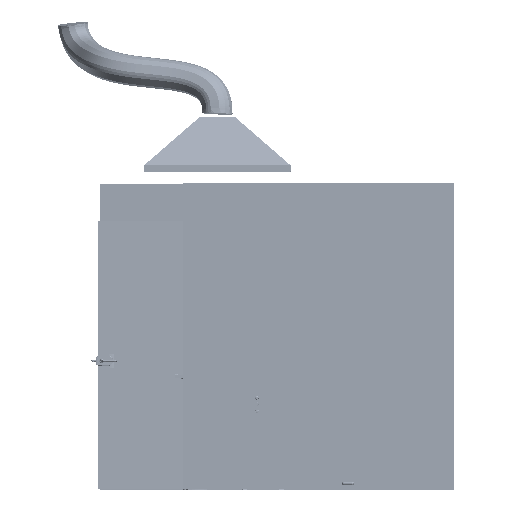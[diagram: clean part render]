
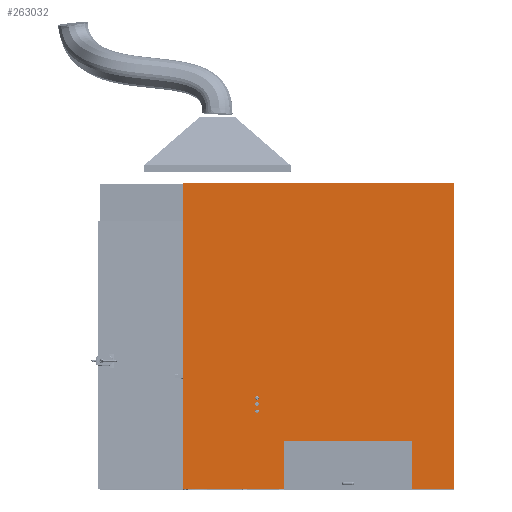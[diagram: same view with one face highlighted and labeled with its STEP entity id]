
A CAD part, top view. The second image highlights one B-rep face of the part: STEP entity #263032.
In plain terms, the highlighted planar face has unit normal (0, 0, 1).
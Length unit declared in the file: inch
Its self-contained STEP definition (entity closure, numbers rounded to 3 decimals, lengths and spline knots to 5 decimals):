
#262437=DIRECTION('',(0.,-1.,0.));
#262438=VECTOR('',#262437,15.74803);
#262439=CARTESIAN_POINT('',(-14.56693,15.74803,
55.19685));
#262440=LINE('',#262439,#262438);
#262493=DIRECTION('',(0.,1.,0.));
#262494=VECTOR('',#262493,98.8189);
#262495=CARTESIAN_POINT('',(-87.48031,0.,55.19685));
#262496=LINE('',#262495,#262494);
#262497=DIRECTION('',(0.,-1.,0.));
#262498=VECTOR('',#262497,98.8189);
#262499=CARTESIAN_POINT('',(0.07874,98.8189,
55.19685));
#262500=LINE('',#262499,#262498);
#262501=DIRECTION('',(-1.,0.,0.));
#262502=VECTOR('',#262501,14.64567);
#262503=CARTESIAN_POINT('',(0.07874,0.,55.19685));
#262504=LINE('',#262503,#262502);
#262505=DIRECTION('',(0.,-1.,0.));
#262506=VECTOR('',#262505,15.74803);
#262507=CARTESIAN_POINT('',(-51.9685,15.74803,
55.19685));
#262508=LINE('',#262507,#262506);
#262509=DIRECTION('',(-1.,0.,0.));
#262510=VECTOR('',#262509,35.51181);
#262511=CARTESIAN_POINT('',(-51.9685,0.,55.19685));
#262512=LINE('',#262511,#262510);
#262513=CARTESIAN_POINT('',(-63.71232,27.55906,
55.19685));
#262514=DIRECTION('',(0.,0.,1.));
#262515=DIRECTION('',(1.,0.,0.));
#262516=AXIS2_PLACEMENT_3D('',#262513,#262514,#262515);
#262518=CARTESIAN_POINT('',(-63.71232,27.55906,
55.19685));
#262519=DIRECTION('',(0.,0.,1.));
#262520=DIRECTION('',(-1.,0.,0.));
#262521=AXIS2_PLACEMENT_3D('',#262518,#262519,#262520);
#262523=CARTESIAN_POINT('',(-63.71232,29.52756,
55.19685));
#262524=DIRECTION('',(0.,0.,1.));
#262525=DIRECTION('',(1.,0.,0.));
#262526=AXIS2_PLACEMENT_3D('',#262523,#262524,#262525);
#262528=CARTESIAN_POINT('',(-63.71232,29.52756,
55.19685));
#262529=DIRECTION('',(0.,0.,1.));
#262530=DIRECTION('',(-1.,0.,0.));
#262531=AXIS2_PLACEMENT_3D('',#262528,#262529,#262530);
#262581=DIRECTION('',(-1.,0.,0.));
#262582=VECTOR('',#262581,87.55906);
#262583=CARTESIAN_POINT('',(0.07874,98.8189,
55.19685));
#262584=LINE('',#262583,#262582);
#262665=DIRECTION('',(1.,0.,0.));
#262666=VECTOR('',#262665,37.40157);
#262667=CARTESIAN_POINT('',(-51.9685,15.74803,
55.19685));
#262668=LINE('',#262667,#262666);
#262755=CARTESIAN_POINT('',(-87.48031,98.8189,
55.19685));
#262756=VERTEX_POINT('',#262755);
#262757=CARTESIAN_POINT('',(-87.48031,0.,55.19685));
#262758=VERTEX_POINT('',#262757);
#262779=CARTESIAN_POINT('',(0.07874,98.8189,
55.19685));
#262780=CARTESIAN_POINT('',(0.07874,0.,55.19685));
#262781=VERTEX_POINT('',#262779);
#262782=VERTEX_POINT('',#262780);
#262783=CARTESIAN_POINT('',(-14.56693,0.,55.19685));
#262784=VERTEX_POINT('',#262783);
#262785=CARTESIAN_POINT('',(-14.56693,15.74803,
55.19685));
#262786=VERTEX_POINT('',#262785);
#262787=CARTESIAN_POINT('',(-51.9685,15.74803,
55.19685));
#262788=VERTEX_POINT('',#262787);
#262789=CARTESIAN_POINT('',(-51.9685,0.,55.19685));
#262790=VERTEX_POINT('',#262789);
#262791=CARTESIAN_POINT('',(-63.27925,27.55906,
55.19685));
#262792=CARTESIAN_POINT('',(-64.14539,27.55906,
55.19685));
#262793=VERTEX_POINT('',#262791);
#262794=VERTEX_POINT('',#262792);
#262795=CARTESIAN_POINT('',(-63.27925,29.52756,
55.19685));
#262796=CARTESIAN_POINT('',(-64.14539,29.52756,
55.19685));
#262797=VERTEX_POINT('',#262795);
#262798=VERTEX_POINT('',#262796);
#263001=CARTESIAN_POINT('',(-87.40157,0.,55.19685));
#263002=DIRECTION('',(0.,0.,1.));
#263003=DIRECTION('',(1.,0.,0.));
#263004=AXIS2_PLACEMENT_3D('',#263001,#263002,#263003);
#263005=PLANE('',#263004);
#263007=ORIENTED_EDGE('',*,*,#263006,.T.);
#263009=ORIENTED_EDGE('',*,*,#263008,.F.);
#263011=ORIENTED_EDGE('',*,*,#263010,.T.);
#263012=ORIENTED_EDGE('',*,*,#262895,.T.);
#263013=ORIENTED_EDGE('',*,*,#262931,.F.);
#263015=ORIENTED_EDGE('',*,*,#263014,.F.);
#263016=ORIENTED_EDGE('',*,*,#262994,.T.);
#263017=ORIENTED_EDGE('',*,*,#262982,.T.);
#263018=EDGE_LOOP('',(#263007,#263009,#263011,#263012,#263013,#263015,#263016,
#263017));
#263019=FACE_OUTER_BOUND('',#263018,.F.);
#263021=ORIENTED_EDGE('',*,*,#263020,.T.);
#263023=ORIENTED_EDGE('',*,*,#263022,.T.);
#263024=EDGE_LOOP('',(#263021,#263023));
#263025=FACE_BOUND('',#263024,.F.);
#263027=ORIENTED_EDGE('',*,*,#263026,.T.);
#263029=ORIENTED_EDGE('',*,*,#263028,.T.);
#263030=EDGE_LOOP('',(#263027,#263029));
#263031=FACE_BOUND('',#263030,.F.);
#262517=CIRCLE('',#262516,0.43307);
#262522=CIRCLE('',#262521,0.43307);
#262527=CIRCLE('',#262526,0.43307);
#262532=CIRCLE('',#262531,0.43307);
#262895=EDGE_CURVE('',#262782,#262784,#262504,.T.);
#262931=EDGE_CURVE('',#262786,#262784,#262440,.T.);
#262982=EDGE_CURVE('',#262790,#262758,#262512,.T.);
#262994=EDGE_CURVE('',#262788,#262790,#262508,.T.);
#263006=EDGE_CURVE('',#262758,#262756,#262496,.T.);
#263008=EDGE_CURVE('',#262781,#262756,#262584,.T.);
#263010=EDGE_CURVE('',#262781,#262782,#262500,.T.);
#263014=EDGE_CURVE('',#262788,#262786,#262668,.T.);
#263020=EDGE_CURVE('',#262793,#262794,#262517,.T.);
#263022=EDGE_CURVE('',#262794,#262793,#262522,.T.);
#263026=EDGE_CURVE('',#262797,#262798,#262527,.T.);
#263028=EDGE_CURVE('',#262798,#262797,#262532,.T.);
#263032=ADVANCED_FACE('',(#263019,#263025,#263031),#263005,.T.);
